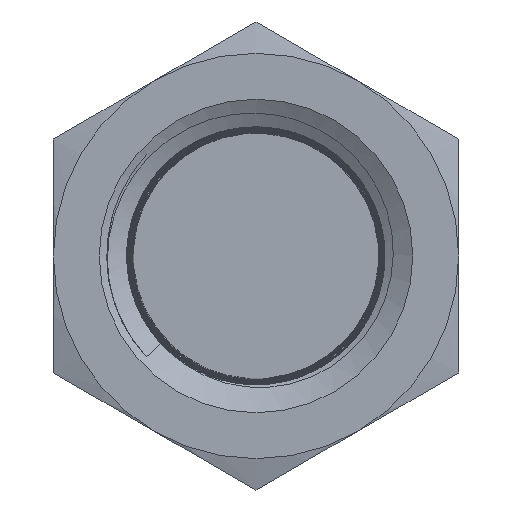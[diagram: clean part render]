
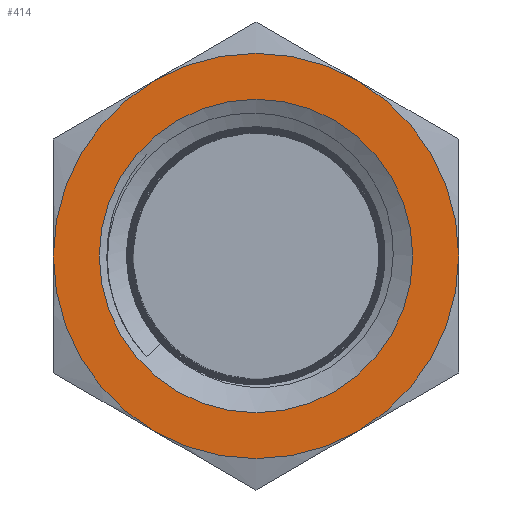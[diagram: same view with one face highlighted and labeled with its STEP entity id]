
A CAD part, left-side view. The second image highlights one B-rep face of the part: STEP entity #414.
In plain terms, the highlighted planar face has unit normal (-1, 0, 0).
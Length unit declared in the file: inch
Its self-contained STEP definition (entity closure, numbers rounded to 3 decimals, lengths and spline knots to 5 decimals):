
#414 = ADVANCED_FACE( '', ( #953, #954 ), #955, .F. );
#953 = FACE_BOUND( '', #4256, .T. );
#954 = FACE_OUTER_BOUND( '', #4257, .T. );
#955 = PLANE( '', #4258 );
#4256 = EDGE_LOOP( '', ( #8232 ) );
#4257 = EDGE_LOOP( '', ( #8233, #8234, #8235, #8236, #8237, #8238 ) );
#4258 = AXIS2_PLACEMENT_3D( '', #8239, #8240, #8241 );
#8232 = ORIENTED_EDGE( '', *, *, #10080, .F. );
#8233 = ORIENTED_EDGE( '', *, *, #9935, .F. );
#8234 = ORIENTED_EDGE( '', *, *, #9682, .F. );
#8235 = ORIENTED_EDGE( '', *, *, #9749, .F. );
#8236 = ORIENTED_EDGE( '', *, *, #9992, .F. );
#8237 = ORIENTED_EDGE( '', *, *, #10081, .F. );
#8238 = ORIENTED_EDGE( '', *, *, #9882, .F. );
#8239 = CARTESIAN_POINT( '', ( 0., 0., 0. ) );
#8240 = DIRECTION( '', ( 1., 0., 0. ) );
#8241 = DIRECTION( '', ( 0., 1., 0. ) );
#9682 = EDGE_CURVE( '', #10446, #10448, #10449, .T. );
#9749 = EDGE_CURVE( '', #10561, #10446, #10563, .T. );
#9882 = EDGE_CURVE( '', #10788, #10785, #10790, .T. );
#9935 = EDGE_CURVE( '', #10448, #10788, #10875, .T. );
#9992 = EDGE_CURVE( '', #10964, #10561, #10966, .T. );
#10080 = EDGE_CURVE( '', #11101, #11101, #11102, .T. );
#10081 = EDGE_CURVE( '', #10785, #10964, #11103, .T. );
#10446 = VERTEX_POINT( '', #11570 );
#10448 = VERTEX_POINT( '', #11577 );
#10449 = CIRCLE( '', #11578, 0.5625 );
#10561 = VERTEX_POINT( '', #11804 );
#10563 = CIRCLE( '', #11811, 0.5625 );
#10785 = VERTEX_POINT( '', #13750 );
#10788 = VERTEX_POINT( '', #13758 );
#10790 = CIRCLE( '', #13765, 0.5625 );
#10875 = CIRCLE( '', #14131, 0.5625 );
#10964 = VERTEX_POINT( '', #14412 );
#10966 = CIRCLE( '', #14419, 0.5625 );
#11101 = VERTEX_POINT( '', #15112 );
#11102 = CIRCLE( '', #15113, 0.435 );
#11103 = CIRCLE( '', #15114, 0.5625 );
#11570 = CARTESIAN_POINT( '', ( 0., 0.5625, 0. ) );
#11577 = CARTESIAN_POINT( '', ( 0., 0.28125, 0.48714 ) );
#11578 = AXIS2_PLACEMENT_3D( '', #16526, #16527, #16528 );
#11804 = CARTESIAN_POINT( '', ( 0., 0.28125, -0.48714 ) );
#11811 = AXIS2_PLACEMENT_3D( '', #16567, #16568, #16569 );
#13750 = CARTESIAN_POINT( '', ( 0., -0.5625, 0. ) );
#13758 = CARTESIAN_POINT( '', ( 0., -0.28125, 0.48714 ) );
#13765 = AXIS2_PLACEMENT_3D( '', #16642, #16643, #16644 );
#14131 = AXIS2_PLACEMENT_3D( '', #16677, #16678, #16679 );
#14412 = CARTESIAN_POINT( '', ( 0., -0.28125, -0.48714 ) );
#14419 = AXIS2_PLACEMENT_3D( '', #16716, #16717, #16718 );
#15112 = CARTESIAN_POINT( '', ( 0., 0., 0.435 ) );
#15113 = AXIS2_PLACEMENT_3D( '', #16769, #16770, #16771 );
#15114 = AXIS2_PLACEMENT_3D( '', #16772, #16773, #16774 );
#16526 = CARTESIAN_POINT( '', ( 0., 0., 0. ) );
#16527 = DIRECTION( '', ( 1., 0., 0. ) );
#16528 = DIRECTION( '', ( 0., 1., 0. ) );
#16567 = CARTESIAN_POINT( '', ( 0., 0., 0. ) );
#16568 = DIRECTION( '', ( 1., 0., 0. ) );
#16569 = DIRECTION( '', ( 0., 1., 0. ) );
#16642 = CARTESIAN_POINT( '', ( 0., 0., 0. ) );
#16643 = DIRECTION( '', ( 1., 0., 0. ) );
#16644 = DIRECTION( '', ( 0., 1., 0. ) );
#16677 = CARTESIAN_POINT( '', ( 0., 0., 0. ) );
#16678 = DIRECTION( '', ( 1., 0., 0. ) );
#16679 = DIRECTION( '', ( 0., 1., 0. ) );
#16716 = CARTESIAN_POINT( '', ( 0., 0., 0. ) );
#16717 = DIRECTION( '', ( 1., 0., 0. ) );
#16718 = DIRECTION( '', ( 0., 1., 0. ) );
#16769 = CARTESIAN_POINT( '', ( 0., 0., 0. ) );
#16770 = DIRECTION( '', ( -1., 0., 0. ) );
#16771 = DIRECTION( '', ( 0., 0., 1. ) );
#16772 = CARTESIAN_POINT( '', ( 0., 0., 0. ) );
#16773 = DIRECTION( '', ( 1., 0., 0. ) );
#16774 = DIRECTION( '', ( 0., 1., 0. ) );
